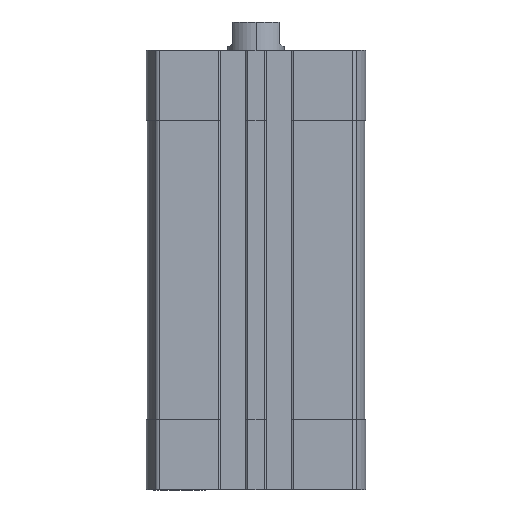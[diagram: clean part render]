
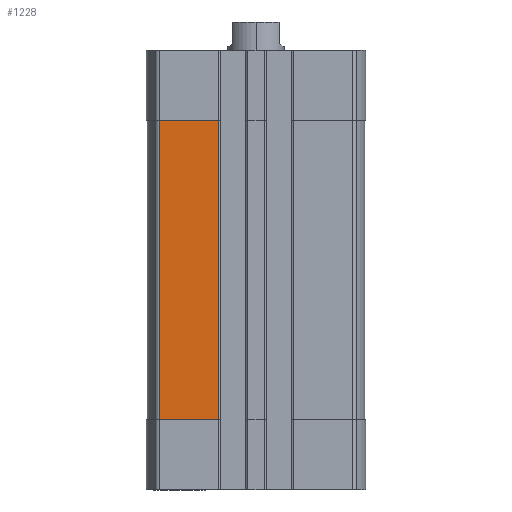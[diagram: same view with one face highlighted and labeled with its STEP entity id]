
A CAD part, left-side view. The second image highlights one B-rep face of the part: STEP entity #1228.
In plain terms, the highlighted planar face has unit normal (-1, 0, 0).
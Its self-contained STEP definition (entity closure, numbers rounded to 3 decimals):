
#133 = DIRECTION ( 'NONE',  ( 0., 0., -1. ) ) ;
#339 = LINE ( 'NONE', #14908, #12848 ) ;
#426 = LINE ( 'NONE', #13068, #2897 ) ;
#583 = PLANE ( 'NONE',  #14236 ) ;
#649 = VERTEX_POINT ( 'NONE', #11292 ) ;
#809 = EDGE_CURVE ( 'NONE', #2856, #649, #339, .T. ) ;
#821 = LINE ( 'NONE', #13563, #4061 ) ;
#1228 = ADVANCED_FACE ( 'NONE', ( #6700 ), #583, .T. ) ;
#1335 = CARTESIAN_POINT ( 'NONE',  ( -23.25, 20.543, -79. ) ) ;
#1961 = ORIENTED_EDGE ( 'NONE', *, *, #2433, .F. ) ;
#2433 = EDGE_CURVE ( 'NONE', #2856, #10314, #821, .T. ) ;
#2822 = EDGE_CURVE ( 'NONE', #7394, #10314, #426, .T. ) ;
#2856 = VERTEX_POINT ( 'NONE', #12041 ) ;
#2897 = VECTOR ( 'NONE', #4667, 1000. ) ;
#3024 = DIRECTION ( 'NONE',  ( 0., 0., 1. ) ) ;
#3535 = EDGE_LOOP ( 'NONE', ( #11266, #1961, #8284, #8257 ) ) ;
#4061 = VECTOR ( 'NONE', #14763, 1000. ) ;
#4667 = DIRECTION ( 'NONE',  ( 0., -1., 0. ) ) ;
#4901 = CARTESIAN_POINT ( 'NONE',  ( -23.25, 20.543, -79. ) ) ;
#5316 = EDGE_CURVE ( 'NONE', #649, #7394, #12320, .T. ) ;
#6614 = DIRECTION ( 'NONE',  ( 0., 1., 0. ) ) ;
#6700 = FACE_OUTER_BOUND ( 'NONE', #3535, .T. ) ;
#6712 = CARTESIAN_POINT ( 'NONE',  ( -23.25, 20.543, -79. ) ) ;
#7394 = VERTEX_POINT ( 'NONE', #4901 ) ;
#8257 = ORIENTED_EDGE ( 'NONE', *, *, #5316, .T. ) ;
#8284 = ORIENTED_EDGE ( 'NONE', *, *, #809, .T. ) ;
#8389 = VECTOR ( 'NONE', #133, 1000. ) ;
#10314 = VERTEX_POINT ( 'NONE', #10760 ) ;
#10400 = DIRECTION ( 'NONE',  ( -1., 0., 0. ) ) ;
#10760 = CARTESIAN_POINT ( 'NONE',  ( -23.25, 7.95, -79. ) ) ;
#11266 = ORIENTED_EDGE ( 'NONE', *, *, #2822, .T. ) ;
#11292 = CARTESIAN_POINT ( 'NONE',  ( -23.25, 20.543, -15. ) ) ;
#12041 = CARTESIAN_POINT ( 'NONE',  ( -23.25, 7.95, -15. ) ) ;
#12320 = LINE ( 'NONE', #1335, #8389 ) ;
#12848 = VECTOR ( 'NONE', #6614, 1000. ) ;
#13068 = CARTESIAN_POINT ( 'NONE',  ( -23.25, 20.543, -79. ) ) ;
#13563 = CARTESIAN_POINT ( 'NONE',  ( -23.25, 7.95, -79. ) ) ;
#14236 = AXIS2_PLACEMENT_3D ( 'NONE', #6712, #10400, #3024 ) ;
#14763 = DIRECTION ( 'NONE',  ( 0., 0., -1. ) ) ;
#14908 = CARTESIAN_POINT ( 'NONE',  ( -23.25, 0., -15. ) ) ;
